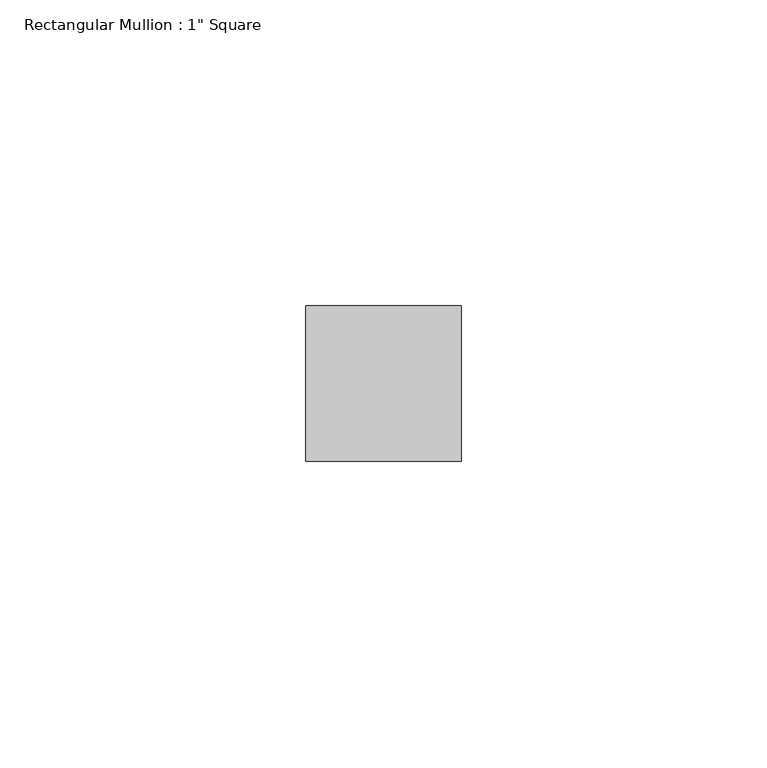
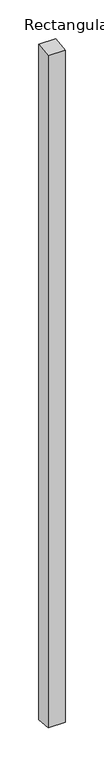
"""IFC4 building model written with IfcOpenShell, lengths in millimetres: member geometry."""

from ifc_helpers import new_model, si_unit, origin, place, context, project, spatial, faceted_brep, source, transform, mapped, element, save


def member_db3310ab(model_context):
    return source(origin(), model_context, "Body", "Brep", [
        faceted_brep([(-25.4, 12.7, 1.2968923), (0.0, 12.7, 1.4887664), (0.0, 12.7, -1068.0745289), (-25.4, 12.7, -1067.910266), (-25.4, -12.7, -1.6806406), (-25.4, -12.7, -1065.3612082), (0.0, -12.7, -1.4887664), (0.0, -12.7, -1065.5254711)], [[[0, 1, 2, 3]], [[4, 0, 3, 5]], [[6, 4, 5, 7]], [[1, 6, 7, 2]], [[1, 0, 4, 6]], [[2, 7, 5, 3]]]),
    ])


if __name__ == "__main__":
    model = new_model("IFC4")
    model_context = context("Model", 3, world=origin())
    ifc_project = project(units=[si_unit("LENGTHUNIT", "METRE", prefix="MILLI")], contexts=[model_context])
    site = spatial("IfcSite", under=ifc_project)
    building = spatial("IfcBuilding", under=site)
    placement = place(None, origin())
    member_shape = member_db3310ab(model_context)
    element("IfcMember", 1, ObjectType="Rectangular Mullion : 1\" Square", at=placement, inside=building, context=model_context, shape_type="MappedRepresentation", body=[
        mapped(member_shape, transform((0.0, 0.0, 0.0), x_axis=(1.0, 0.0, 0.0), y_axis=(0.0, 1.0, 0.0), z_axis=(0.0, 0.0, 1.0))),
    ])
    save(model, "model.ifc")
